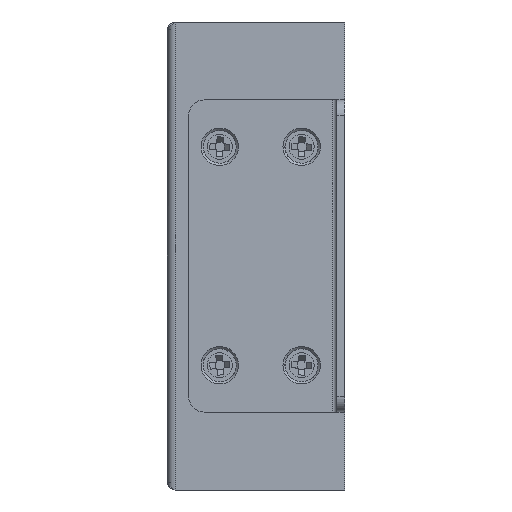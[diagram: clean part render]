
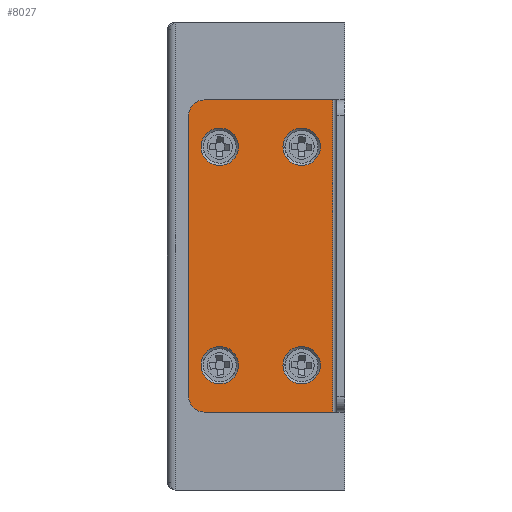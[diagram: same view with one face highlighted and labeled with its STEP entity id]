
A CAD part, left-side view. The second image highlights one B-rep face of the part: STEP entity #8027.
In plain terms, the highlighted planar face has unit normal (-1, 0, 0) as drawn and (0, 0, -1) by its records, which use the part's own axes.
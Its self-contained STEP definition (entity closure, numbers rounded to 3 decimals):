
#588=FACE_BOUND('',#1503,.T.);
#589=FACE_BOUND('',#1504,.T.);
#590=FACE_BOUND('',#1505,.T.);
#591=FACE_BOUND('',#1506,.T.);
#945=FACE_OUTER_BOUND('',#1502,.T.);
#1502=EDGE_LOOP('',(#7002,#7003,#7004,#7005,#7006,#7007));
#1503=EDGE_LOOP('',(#7008));
#1504=EDGE_LOOP('',(#7009));
#1505=EDGE_LOOP('',(#7010));
#1506=EDGE_LOOP('',(#7011));
#2134=LINE('',#13606,#2802);
#2140=LINE('',#13626,#2808);
#2141=LINE('',#13630,#2809);
#2142=LINE('',#13631,#2810);
#2802=VECTOR('',#11020,16.5);
#2808=VECTOR('',#11038,36.);
#2809=VECTOR('',#11041,16.5);
#2810=VECTOR('',#11042,40.);
#3315=CIRCLE('',#8914,2.);
#3317=CIRCLE('',#8917,2.);
#3318=CIRCLE('',#8918,2.4);
#3319=CIRCLE('',#8919,2.4);
#3320=CIRCLE('',#8920,2.4);
#3321=CIRCLE('',#8921,2.4);
#3925=VERTEX_POINT('',#13603);
#3926=VERTEX_POINT('',#13605);
#3932=VERTEX_POINT('',#13619);
#3934=VERTEX_POINT('',#13625);
#3935=VERTEX_POINT('',#13627);
#3936=VERTEX_POINT('',#13629);
#3937=VERTEX_POINT('',#13632);
#3938=VERTEX_POINT('',#13634);
#3939=VERTEX_POINT('',#13636);
#3940=VERTEX_POINT('',#13638);
#4973=EDGE_CURVE('',#3926,#3925,#2134,.T.);
#4980=EDGE_CURVE('',#3925,#3932,#3315,.T.);
#4983=EDGE_CURVE('',#3932,#3934,#2140,.T.);
#4984=EDGE_CURVE('',#3934,#3935,#3317,.T.);
#4985=EDGE_CURVE('',#3936,#3935,#2141,.T.);
#4986=EDGE_CURVE('',#3926,#3936,#2142,.T.);
#4987=EDGE_CURVE('',#3937,#3937,#3318,.T.);
#4988=EDGE_CURVE('',#3938,#3938,#3319,.T.);
#4989=EDGE_CURVE('',#3939,#3939,#3320,.T.);
#4990=EDGE_CURVE('',#3940,#3940,#3321,.T.);
#7002=ORIENTED_EDGE('',*,*,#4980,.T.);
#7003=ORIENTED_EDGE('',*,*,#4983,.T.);
#7004=ORIENTED_EDGE('',*,*,#4984,.T.);
#7005=ORIENTED_EDGE('',*,*,#4985,.F.);
#7006=ORIENTED_EDGE('',*,*,#4986,.F.);
#7007=ORIENTED_EDGE('',*,*,#4973,.T.);
#7008=ORIENTED_EDGE('',*,*,#4987,.T.);
#7009=ORIENTED_EDGE('',*,*,#4988,.T.);
#7010=ORIENTED_EDGE('',*,*,#4989,.T.);
#7011=ORIENTED_EDGE('',*,*,#4990,.T.);
#7641=PLANE('',#8916);
#8027=ADVANCED_FACE('',(#945,#588,#589,#590,#591),#7641,.T.);
#8914=AXIS2_PLACEMENT_3D('',#13620,#11031,#11032);
#8916=AXIS2_PLACEMENT_3D('',#13624,#11036,#11037);
#8917=AXIS2_PLACEMENT_3D('',#13628,#11039,#11040);
#8918=AXIS2_PLACEMENT_3D('',#13633,#11043,#11044);
#8919=AXIS2_PLACEMENT_3D('',#13635,#11045,#11046);
#8920=AXIS2_PLACEMENT_3D('',#13637,#11047,#11048);
#8921=AXIS2_PLACEMENT_3D('',#13639,#11049,#11050);
#11020=DIRECTION('',(0.,1.,0.));
#11031=DIRECTION('center_axis',(0.,0.,-1.));
#11032=DIRECTION('ref_axis',(-1.,0.,0.));
#11036=DIRECTION('center_axis',(0.,0.,-1.));
#11037=DIRECTION('ref_axis',(0.,1.,0.));
#11038=DIRECTION('',(1.,0.,0.));
#11039=DIRECTION('center_axis',(0.,0.,-1.));
#11040=DIRECTION('ref_axis',(0.,1.,0.));
#11041=DIRECTION('',(0.,1.,0.));
#11042=DIRECTION('',(1.,0.,0.));
#11043=DIRECTION('center_axis',(0.,0.,1.));
#11044=DIRECTION('ref_axis',(1.,0.,0.));
#11045=DIRECTION('center_axis',(0.,0.,1.));
#11046=DIRECTION('ref_axis',(1.,0.,0.));
#11047=DIRECTION('center_axis',(0.,0.,1.));
#11048=DIRECTION('ref_axis',(1.,0.,0.));
#11049=DIRECTION('center_axis',(0.,0.,1.));
#11050=DIRECTION('ref_axis',(1.,0.,0.));
#13603=CARTESIAN_POINT('',(-20.,6.7,12.139));
#13605=CARTESIAN_POINT('',(-20.,-9.8,12.139));
#13606=CARTESIAN_POINT('',(-20.,-9.8,12.139));
#13619=CARTESIAN_POINT('',(-18.,8.7,12.139));
#13620=CARTESIAN_POINT('Origin',(-18.,6.7,12.139));
#13624=CARTESIAN_POINT('Origin',(-20.,-9.8,12.139));
#13625=CARTESIAN_POINT('',(18.,8.7,12.139));
#13626=CARTESIAN_POINT('',(-18.,8.7,12.139));
#13627=CARTESIAN_POINT('',(20.,6.7,12.139));
#13628=CARTESIAN_POINT('Origin',(18.,6.7,12.139));
#13629=CARTESIAN_POINT('',(20.,-9.8,12.139));
#13630=CARTESIAN_POINT('',(20.,-9.8,12.139));
#13631=CARTESIAN_POINT('',(-20.,-9.8,12.139));
#13632=CARTESIAN_POINT('',(-14.,-3.4,12.139));
#13633=CARTESIAN_POINT('Origin',(-14.,-5.8,12.139));
#13634=CARTESIAN_POINT('',(-14.,7.1,12.139));
#13635=CARTESIAN_POINT('Origin',(-14.,4.7,12.139));
#13636=CARTESIAN_POINT('',(14.,7.1,12.139));
#13637=CARTESIAN_POINT('Origin',(14.,4.7,12.139));
#13638=CARTESIAN_POINT('',(14.,-3.4,12.139));
#13639=CARTESIAN_POINT('Origin',(14.,-5.8,12.139));
